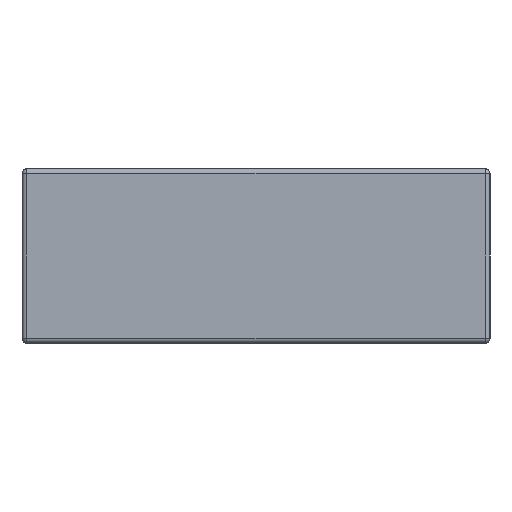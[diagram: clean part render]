
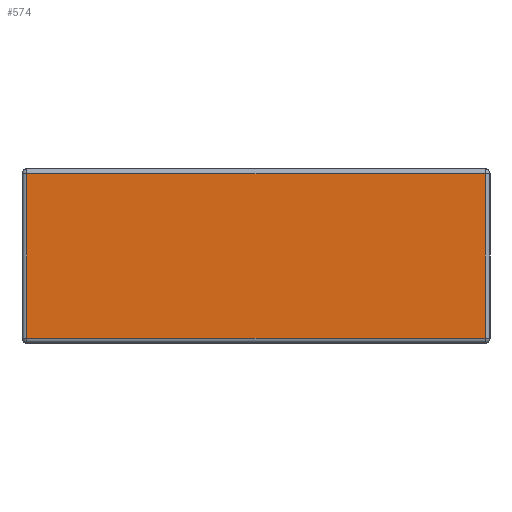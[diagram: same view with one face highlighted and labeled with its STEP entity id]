
A CAD part, left-side view. The second image highlights one B-rep face of the part: STEP entity #574.
In plain terms, the highlighted planar face has unit normal (-1, 0, 0).
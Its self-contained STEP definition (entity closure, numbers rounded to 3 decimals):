
#535=CARTESIAN_POINT('',(-5.,-12.45,13.));
#536=DIRECTION('',(-1.,0.,0.));
#537=DIRECTION('',(0.,0.,1.));
#538=AXIS2_PLACEMENT_3D('',#535,#536,#537);
#539=PLANE('',#538);
#540=CARTESIAN_POINT('',(-5.,-29.546,0.354));
#541=VERTEX_POINT('',#540);
#542=CARTESIAN_POINT('',(-5.,-29.546,12.646));
#543=VERTEX_POINT('',#542);
#544=CARTESIAN_POINT('',(-5.,-29.546,0.354));
#545=DIRECTION('',(-0.,-0.,1.));
#546=VECTOR('',#545,12.293);
#547=LINE('',#544,#546);
#548=EDGE_CURVE('',#541,#543,#547,.T.);
#549=ORIENTED_EDGE('',*,*,#548,.T.);
#550=CARTESIAN_POINT('',(-5.,4.646,12.646));
#551=VERTEX_POINT('',#550);
#552=CARTESIAN_POINT('',(-5.,-29.546,12.646));
#553=DIRECTION('',(0.,1.,0.));
#554=VECTOR('',#553,34.193);
#555=LINE('',#552,#554);
#556=EDGE_CURVE('',#543,#551,#555,.T.);
#557=ORIENTED_EDGE('',*,*,#556,.T.);
#558=CARTESIAN_POINT('',(-5.,4.646,0.354));
#559=VERTEX_POINT('',#558);
#560=CARTESIAN_POINT('',(-5.,4.646,12.646));
#561=DIRECTION('',(0.,0.,-1.));
#562=VECTOR('',#561,12.293);
#563=LINE('',#560,#562);
#564=EDGE_CURVE('',#551,#559,#563,.T.);
#565=ORIENTED_EDGE('',*,*,#564,.T.);
#566=CARTESIAN_POINT('',(-5.,4.646,0.354));
#567=DIRECTION('',(-0.,-1.,-0.));
#568=VECTOR('',#567,34.193);
#569=LINE('',#566,#568);
#570=EDGE_CURVE('',#559,#541,#569,.T.);
#571=ORIENTED_EDGE('',*,*,#570,.T.);
#572=EDGE_LOOP('',(#549,#557,#565,#571));
#573=FACE_BOUND('',#572,.T.);
#574=ADVANCED_FACE('',(#573),#539,.T.);
